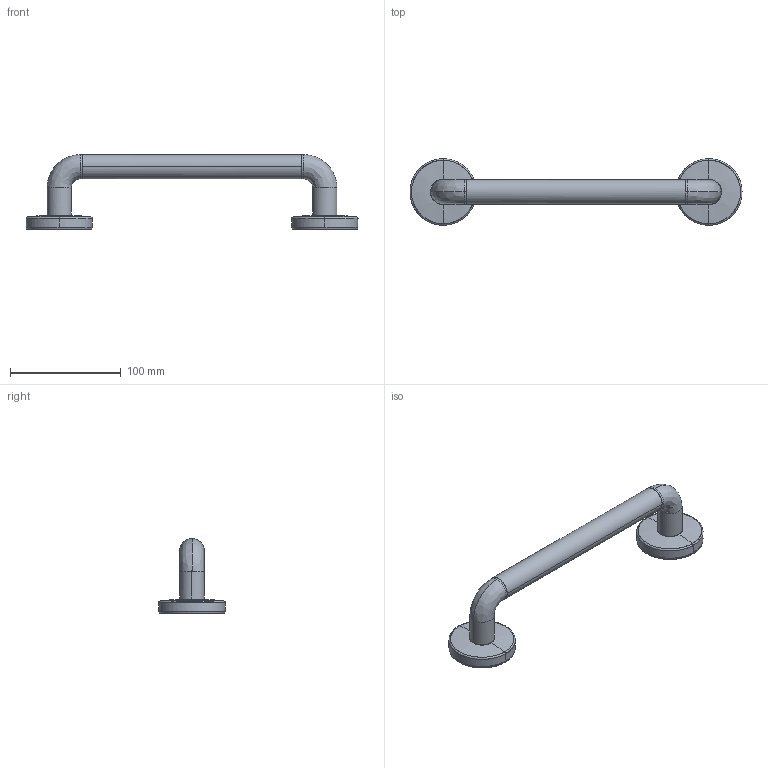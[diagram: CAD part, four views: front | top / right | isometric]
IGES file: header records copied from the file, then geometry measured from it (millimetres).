
Start section: SolidWorks IGES file using NURBS representation for surfaces
Global section: file name: G:\4- VARIOS\9 - Web Files\ARCHITECT\290##10-W.IGS; native system: SolidWorks 2016; preprocessor: SolidWorks 2016; author: vegrut01; date: 201023.083616; units: millimetre
Bounding box: 300 x 60 x 67.5 mm (x, y, z)
Surface area: 65081.4 mm2 (no closed solid volume)
Topology: 0 solids, 0 shells, 198 faces, 3110 edges, 3580 vertices
Faces by surface type: bspline 198
